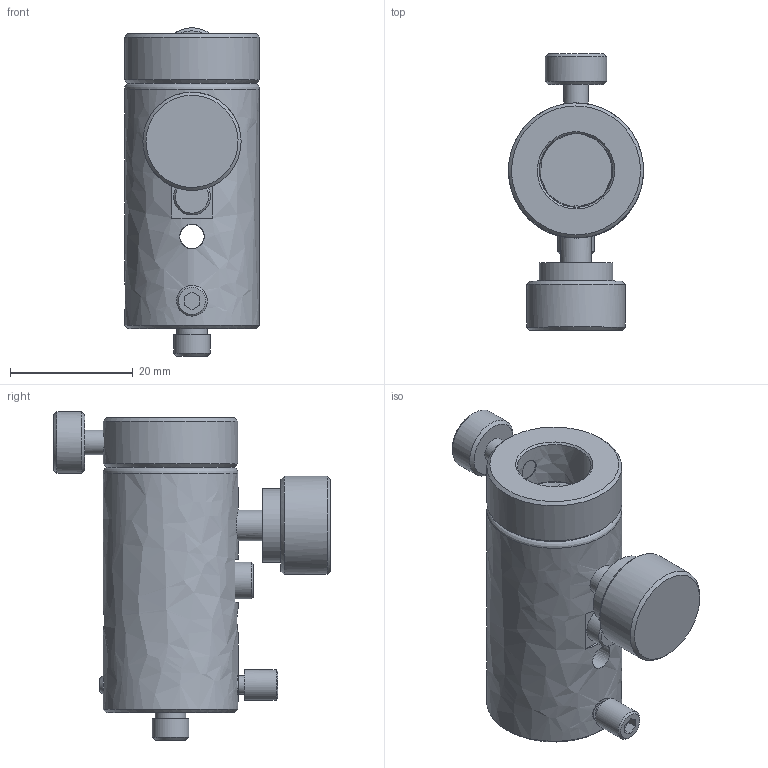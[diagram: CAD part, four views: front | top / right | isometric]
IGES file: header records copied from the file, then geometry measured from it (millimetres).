
Global section: file name: BRS-12-40-M6; native system: Autodesk Inventor 2021; preprocessor: unknown; author: e.nonaka; date: 20220914.135640; units: millimetre
Bounding box: 22 x 45 x 53.49 mm (x, y, z)
Volume: 15996.1 mm3; surface area: 7384.1 mm2
Topology: 1 solids, 1 shells, 78 faces, 161 edges, 105 vertices
Faces by surface type: bspline 78
